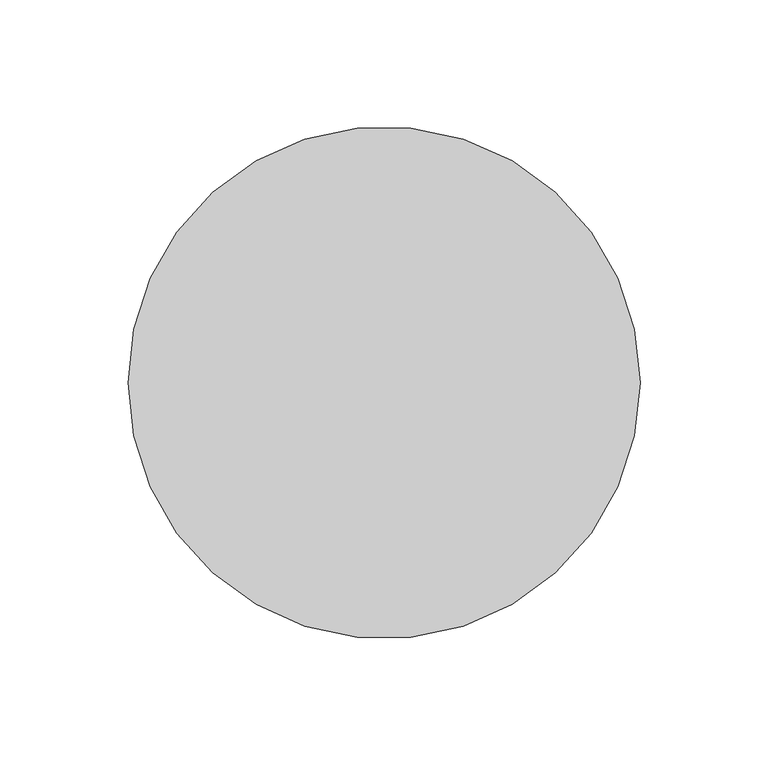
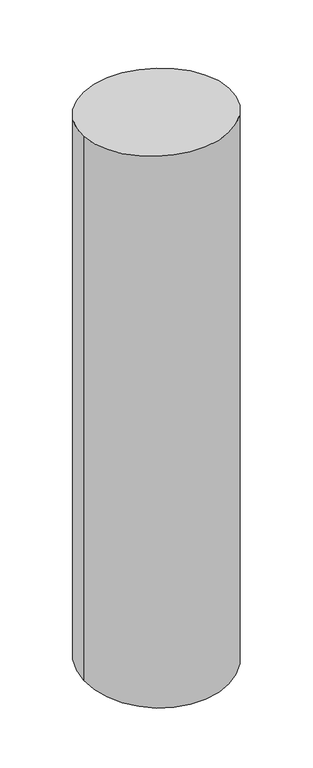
"""IFC4 building model written with IfcOpenShell, lengths in millimetres: member geometry, 矩形竖梃 : 圆瓦."""

from ifc_helpers import new_model, si_unit, frame, origin, origin_with_axes, place, context, project, spatial, ellipse_curve, source, transform, mapped, element, save
from ifc_brep_helpers import plane_surface, cylinder_surface, advanced_brep


def member_7e32749a(model_context):
    return source(origin(), model_context, "Body", "AdvancedBrep", [
        advanced_brep(
        [(-100.0, 0.0, 0.0), (100.0, 0.0, 0.0), (100.0, 0.0, -790.1124317), (-100.0, 0.0, -790.1124317)],
        [
            (0, 1, ellipse_curve(frame((0.0, 0.0, 0.0), z_axis=(0.0, -0.0676727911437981, -0.9977075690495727), x_axis=(0.0, -0.9977075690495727, 0.06767279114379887)), 100.2297698, 100.0)),
            (1, 2),
            (2, 3, ellipse_curve(frame((0.0, 0.0, -790.1124317), z_axis=(0.0, -0.06281746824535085, 0.9980250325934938), x_axis=(0.0, 0.998025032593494, 0.06281746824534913)), 100.1978876, 100.0)),
            (3, 0),
            (1, 0, ellipse_curve(frame((0.0, 0.0, 0.0), z_axis=(0.0, -0.0676727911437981, -0.9977075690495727), x_axis=(0.0, -0.9977075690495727, 0.06767279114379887)), 100.2297698, 100.0)),
            (3, 2, ellipse_curve(frame((0.0, 0.0, -790.1124317), z_axis=(0.0, -0.06281746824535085, 0.9980250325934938), x_axis=(0.0, 0.998025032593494, 0.06281746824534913)), 100.1978876, 100.0)),
        ],
        [
            cylinder_surface(origin_with_axes(), 100.0),
            plane_surface(frame((-304.8, 0.0, 0.0), z_axis=(0.0, 0.0676727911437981, 0.9977075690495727), x_axis=(0.0, 0.9977075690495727, -0.0676727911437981))),
            plane_surface(frame((-304.8, 0.0, -790.1124317), z_axis=(0.0, 0.06281746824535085, -0.9980250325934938), x_axis=(0.0, 0.9980250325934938, 0.06281746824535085))),
        ],
        [
            (0, [[1, 2, 3, 4]]),
            (0, [[5, -4, 6, -2]]),
            (1, [[-1, -5]]),
            (2, [[-6, -3]]),
        ],
    ),
    ])


if __name__ == "__main__":
    model = new_model("IFC4")
    model_context = context("Model", 3, world=origin())
    ifc_project = project(units=[si_unit("LENGTHUNIT", "METRE", prefix="MILLI")], contexts=[model_context])
    site = spatial("IfcSite", under=ifc_project)
    building = spatial("IfcBuilding", under=site)
    placement = place(None, origin())
    member_shape = member_7e32749a(model_context)
    element("IfcMember", 1, ObjectType="矩形竖梃 : 圆瓦", at=placement, inside=building, context=model_context, shape_type="MappedRepresentation", body=[
        mapped(member_shape, transform((0.0, 0.0, 0.0), x_axis=(1.0, 0.0, 0.0), y_axis=(0.0, 1.0, 0.0), z_axis=(0.0, 0.0, 1.0))),
    ])
    save(model, "model.ifc")
